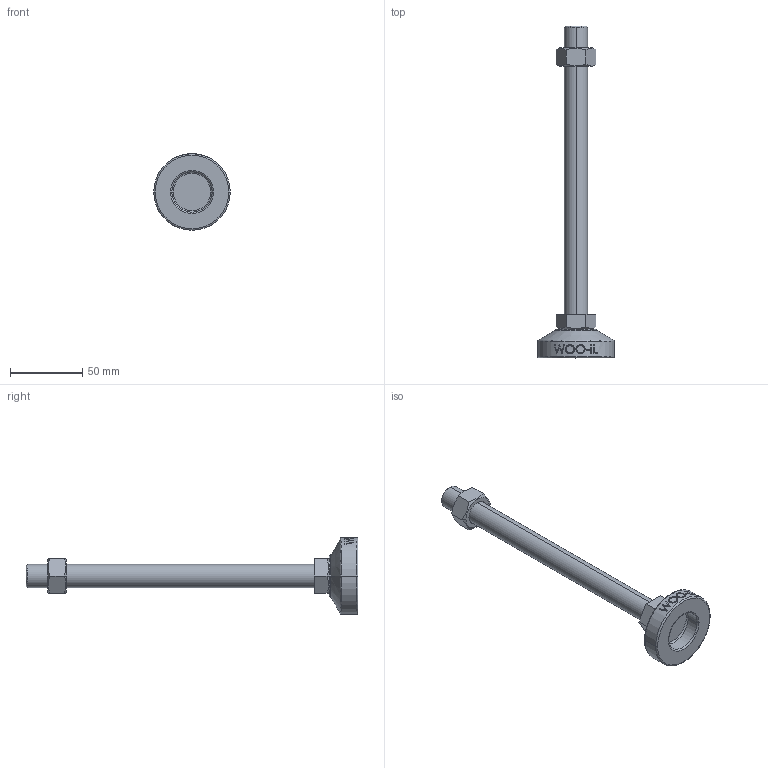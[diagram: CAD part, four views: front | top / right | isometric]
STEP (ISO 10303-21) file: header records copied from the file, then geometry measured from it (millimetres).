
FILE_DESCRIPTION (( 'STEP AP214' ), '1' );
FILE_NAME ('MFZ53-M16-200.step', '2021-01-15T07:04:45', ( '' ), ( '' ), 'SwSTEP 2.0', 'SolidWorks 2019', '' );
FILE_SCHEMA (( 'AUTOMOTIVE_DESIGN' ));
Length unit declared in the file: millimetre
Products named in the file (2): MFZ53-M16-200
Bounding box: 53 x 230 x 53 mm (x, y, z)
Volume: 78987.9 mm3; surface area: 21541 mm2
Topology: 3 solids, 3 shells, 106 faces, 243 edges, 154 vertices
Faces by surface type: plane 48, cylinder 18, bspline 16, cone 14, torus 10
Entity records: 4508 total; most frequent: CARTESIAN_POINT 2165, ORIENTED_EDGE 486, DIRECTION 439, EDGE_CURVE 243, AXIS2_PLACEMENT_3D 170, VERTEX_POINT 154, EDGE_LOOP 119, ADVANCED_FACE 106
